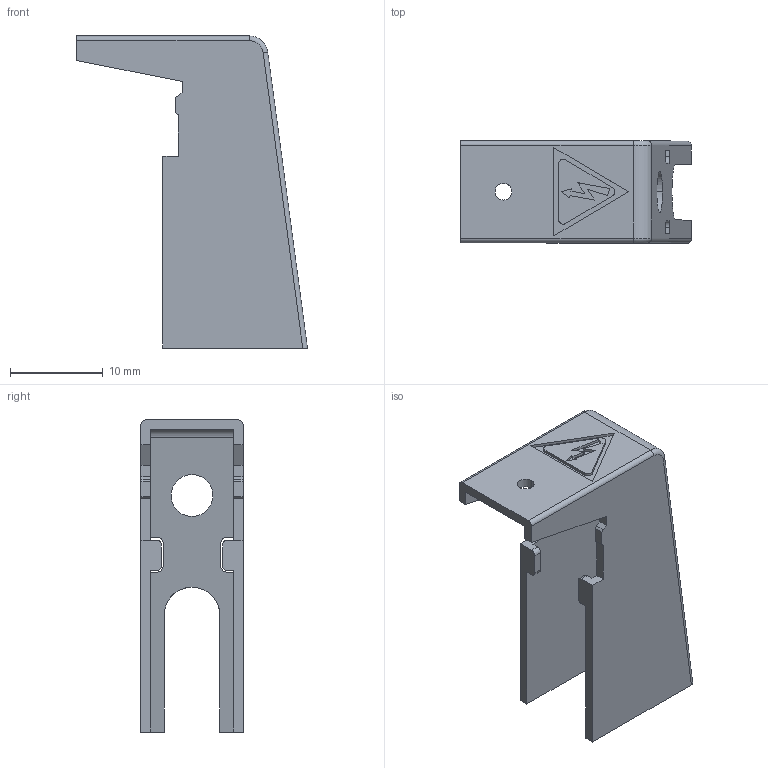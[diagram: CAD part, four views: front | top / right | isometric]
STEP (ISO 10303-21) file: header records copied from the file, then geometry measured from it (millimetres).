
FILE_DESCRIPTION (( 'STEP AP203' ), '1' );
FILE_NAME ('NF2-40TS1.STEP', '2024-03-01T04:41:38', ( 'wzjh' ), ( '' ), 'SwSTEP 2.0', 'SolidWorks 2023', '' );
FILE_SCHEMA (( 'CONFIG_CONTROL_DESIGN' ));
Length unit declared in the file: millimetre
Products named in the file (1): NF2-40TS1
Bounding box: 24.86 x 11 x 33.61 mm (x, y, z)
Volume: 1283.9 mm3; surface area: 2800.3 mm2
Topology: 1 solids, 1 shells, 89 faces, 254 edges, 168 vertices
Faces by surface type: plane 57, cylinder 24, bspline 6, torus 2
Entity records: 3197 total; most frequent: CARTESIAN_POINT 858, ORIENTED_EDGE 508, DIRECTION 417, EDGE_CURVE 254, LINE 185, VECTOR 185, VERTEX_POINT 168, AXIS2_PLACEMENT_3D 116
